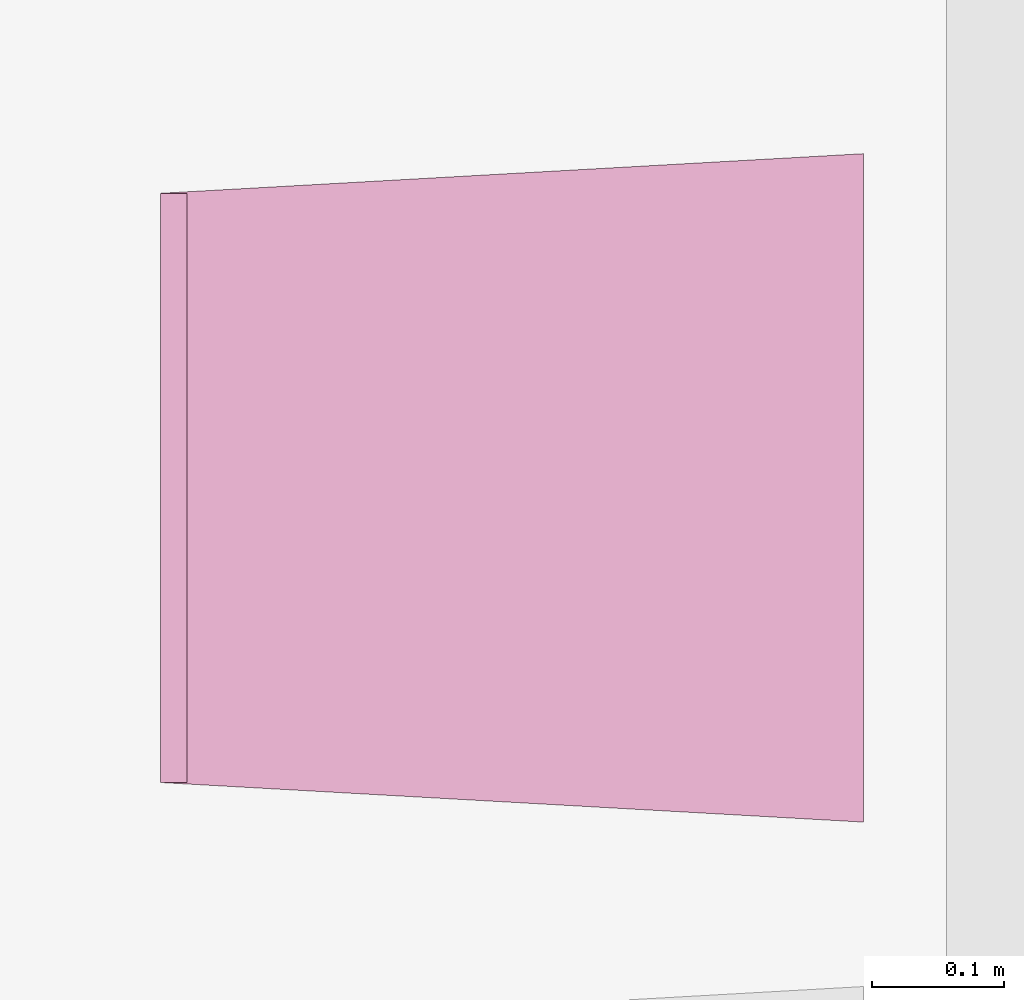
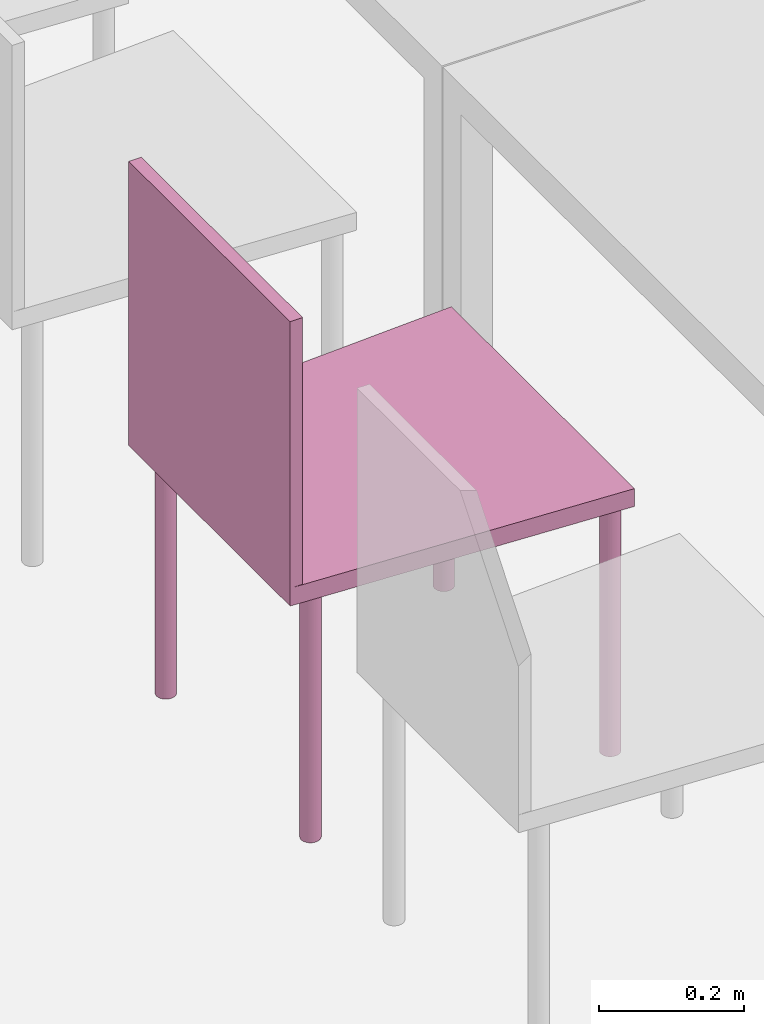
"""IFC4 building model written with IfcOpenShell, lengths in metres."""

from ifc_helpers import new_model, entity, si_unit, converted_unit, derived_unit, frame, origin, place, context, subcontext, project, spatial, faceted_brep, element, save


model = new_model("IFC4")

# Units and contexts
model_context = context("Model", 3, precision=1e-05, world=origin())
body_context = subcontext(model_context, "Body", "Model", "MODEL_VIEW")
ifc_project = project(units=[si_unit("LENGTHUNIT", "METRE"), si_unit("AREAUNIT", "SQUARE_METRE"), si_unit("VOLUMEUNIT", "CUBIC_METRE"), si_unit("MASSUNIT", "GRAM", prefix="KILO"), converted_unit("PLANEANGLEUNIT", "DEGREE", entity("IfcPlaneAngleMeasure", 0.0174532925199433), si_unit("PLANEANGLEUNIT", "RADIAN"), dimensions=[0, 0, 0, 0, 0, 0, 0]), derived_unit("THERMALTRANSMITTANCEUNIT", [(si_unit("POWERUNIT", "WATT"), 1), (si_unit("THERMODYNAMICTEMPERATUREUNIT", "KELVIN"), -1), (si_unit("LENGTHUNIT", "METRE"), -2)]), derived_unit("VOLUMETRICFLOWRATEUNIT", [(si_unit("LENGTHUNIT", "METRE"), 3), (converted_unit("TIMEUNIT", "hour", entity("IfcTimeMeasure", 3600.0), si_unit("TIMEUNIT", "SECOND"), dimensions=[0, 0, 1, 0, 0, 0, 0]), -1), (si_unit("LENGTHUNIT", "METRE"), -1)])], contexts=[model_context])

# Building, storeys
building_placement = place(None, origin())
building = spatial("IfcBuilding", under=ifc_project, at=building_placement, Name="HABITATGE PLURIFAMILIAR", CompositionType="ELEMENT")
storey_1_placement = place(building_placement, frame((0.0, 0.0, 3.35)))
storey_1 = spatial("IfcBuildingStorey", under=building, at=storey_1_placement, Name="PLANTA  ALTELL", CompositionType="ELEMENT", Elevation=3.35)
storey_2_placement = place(storey_1_placement, origin())
storey_2 = spatial("IfcBuildingStorey", under=storey_1, at=storey_2_placement, Name="NOU", CompositionType="PARTIAL")

# Furniture
furniture_placement = place(storey_2_placement, frame((400.206206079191, 19.4803721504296, 0.0499839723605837)))
element("IfcFurniture", 1, at=furniture_placement, inside=storey_2, Name="Cadira confident_PA", context=body_context, shape_type="Brep", body=[
    faceted_brep([(0.507575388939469, 0.0391636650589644, 0.0), (0.504980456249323, 0.0389479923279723, 0.0), (0.502462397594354, 0.0382849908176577, 0.0), (0.500097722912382, 0.0371948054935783, 0.0), (0.497958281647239, 0.0357105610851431, 0.0), (0.496109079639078, 0.0338773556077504, 0.0), (0.494606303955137, 0.0317508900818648, 0.0), (0.493495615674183, 0.0293957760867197, 0.0), (0.492810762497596, 0.0268835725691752, 0.0), (0.492572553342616, 0.0242906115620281, 0.0), (0.492788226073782, 0.0216956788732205, 0.0), (0.493451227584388, 0.019177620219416, 0.0), (0.494541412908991, 0.0168129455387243, 0.0), (0.496025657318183, 0.0146735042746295, 0.0), (0.497858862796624, 0.0128243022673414, 0.0), (0.499985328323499, 0.0113215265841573, 0.0), (0.502340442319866, 0.0102108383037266, 0.0), (0.504852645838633, 0.00952598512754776, 0.0), (0.507445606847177, 0.00928777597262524, 0.0), (0.510040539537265, 0.00950344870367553, 0.0), (0.512558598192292, 0.010166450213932, 0.0), (0.514923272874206, 0.0112566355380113, 0.0), (0.517062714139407, 0.0127408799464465, 0.0), (0.518911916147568, 0.0145740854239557, 0.0), (0.520414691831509, 0.0167005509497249, 0.0), (0.521525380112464, 0.0190556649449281, 0.0), (0.52221023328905, 0.0215678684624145, 0.0), (0.522448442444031, 0.0241608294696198, 0.0), (0.522232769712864, 0.0267557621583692, 0.0), (0.521569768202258, 0.0292738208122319, 0.0), (0.520479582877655, 0.0316384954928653, 0.0), (0.518995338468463, 0.0337779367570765, 0.0), (0.517162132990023, 0.0356271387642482, 0.0), (0.515035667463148, 0.0371299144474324, 0.0), (0.51268055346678, 0.038240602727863, 0.0), (0.510168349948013, 0.0389254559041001, 0.0), (0.507575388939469, 0.0391636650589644, 0.448281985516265), (0.510168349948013, 0.0389254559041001, 0.448281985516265), (0.51268055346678, 0.038240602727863, 0.448281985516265), (0.515035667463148, 0.0371299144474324, 0.448281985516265), (0.517162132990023, 0.0356271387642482, 0.448281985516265), (0.518995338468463, 0.0337779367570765, 0.448281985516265), (0.520479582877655, 0.0316384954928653, 0.448281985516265), (0.521569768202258, 0.0292738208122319, 0.448281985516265), (0.522232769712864, 0.0267557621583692, 0.448281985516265), (0.522448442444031, 0.0241608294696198, 0.448281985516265), (0.52221023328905, 0.0215678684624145, 0.448281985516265), (0.521525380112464, 0.0190556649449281, 0.448281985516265), (0.520414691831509, 0.0167005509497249, 0.448281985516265), (0.518911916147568, 0.0145740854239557, 0.448281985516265), (0.517062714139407, 0.0127408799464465, 0.448281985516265), (0.514923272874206, 0.0112566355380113, 0.448281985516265), (0.512558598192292, 0.010166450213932, 0.448281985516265), (0.510040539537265, 0.00950344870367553, 0.448281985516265), (0.507445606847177, 0.00928777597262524, 0.448281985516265), (0.504852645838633, 0.00952598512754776, 0.448281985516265), (0.502340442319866, 0.0102108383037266, 0.448281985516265), (0.499985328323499, 0.0113215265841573, 0.448281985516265), (0.497858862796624, 0.0128243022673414, 0.448281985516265), (0.496025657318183, 0.0146735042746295, 0.448281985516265), (0.494541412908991, 0.0168129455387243, 0.448281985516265), (0.493451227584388, 0.019177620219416, 0.448281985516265), (0.492788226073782, 0.0216956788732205, 0.448281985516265), (0.492572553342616, 0.0242906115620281, 0.448281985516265), (0.492810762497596, 0.0268835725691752, 0.448281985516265), (0.493495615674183, 0.0293957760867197, 0.448281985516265), (0.494606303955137, 0.0317508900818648, 0.448281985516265), (0.496109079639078, 0.0338773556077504, 0.448281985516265), (0.497958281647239, 0.0357105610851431, 0.448281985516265), (0.500097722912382, 0.0371948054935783, 0.448281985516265), (0.502462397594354, 0.0382849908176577, 0.448281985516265), (0.504980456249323, 0.0389479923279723, 0.448281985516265)], [[[0, 1, 2, 3, 4, 5, 6, 7, 8, 9, 10, 11, 12, 13, 14, 15, 16, 17, 18, 19, 20, 21, 22, 23, 24, 25, 26, 27, 28, 29, 30, 31, 32, 33, 34, 35]], [[36, 37, 38, 39, 40, 41, 42, 43, 44, 45, 46, 47, 48, 49, 50, 51, 52, 53, 54, 55, 56, 57, 58, 59, 60, 61, 62, 63, 64, 65, 66, 67, 68, 69, 70, 71]], [[1, 0, 36, 71]], [[2, 1, 71, 70]], [[3, 2, 70, 69]], [[4, 3, 69, 68]], [[5, 4, 68, 67]], [[6, 5, 67, 66]], [[7, 6, 66, 65]], [[8, 7, 65, 64]], [[9, 8, 64, 63]], [[10, 9, 63, 62]], [[11, 10, 62, 61]], [[12, 11, 61, 60]], [[13, 12, 60, 59]], [[14, 13, 59, 58]], [[15, 14, 58, 57]], [[16, 15, 57, 56]], [[17, 16, 56, 55]], [[18, 17, 55, 54]], [[19, 18, 54, 53]], [[20, 19, 53, 52]], [[21, 20, 52, 51]], [[22, 21, 51, 50]], [[23, 22, 50, 49]], [[24, 23, 49, 48]], [[25, 24, 48, 47]], [[26, 25, 47, 46]], [[27, 26, 46, 45]], [[28, 27, 45, 44]], [[29, 28, 44, 43]], [[30, 29, 43, 42]], [[31, 30, 42, 41]], [[32, 31, 41, 40]], [[33, 32, 40, 39]], [[34, 33, 39, 38]], [[35, 34, 38, 37]], [[0, 35, 37, 36]]], orient=[[False], [False], [False], [False], [False], [False], [False], [False], [False], [False], [False], [False], [False], [False], [False], [False], [False], [False], [False], [False], [False], [False], [False], [False], [False], [False], [False], [False], [False], [False], [False], [False], [False], [False], [False], [False], [False], [False]]),
    faceted_brep([(0.0451683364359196, 0.0668016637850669, 0.0), (0.0425734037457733, 0.0665859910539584, 0.0), (0.0400553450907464, 0.065922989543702, 0.0), (0.0376906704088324, 0.0648328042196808, 0.0), (0.0355512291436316, 0.0633485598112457, 0.0), (0.0337020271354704, 0.0615153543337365, 0.0), (0.0321992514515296, 0.0593888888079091, 0.0), (0.0310885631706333, 0.057033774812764, 0.0), (0.0304037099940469, 0.0545215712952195, 0.0), (0.030165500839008, 0.0519286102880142, 0.0), (0.0303811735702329, 0.0493336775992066, 0.0), (0.0310441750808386, 0.0468156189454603, 0.0), (0.0321343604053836, 0.0444509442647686, 0.0), (0.0336186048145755, 0.0423115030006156, 0.0), (0.035451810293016, 0.0404623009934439, 0.0), (0.0375782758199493, 0.0389595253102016, 0.0), (0.0399333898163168, 0.0378488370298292, 0.0), (0.0424455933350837, 0.0371639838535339, 0.0), (0.0450385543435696, 0.0369257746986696, 0.0), (0.0476334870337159, 0.0371414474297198, 0.0), (0.0501515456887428, 0.0378044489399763, 0.0), (0.0525162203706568, 0.0388946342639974, 0.0), (0.0546556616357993, 0.0403788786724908, 0.0), (0.0565048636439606, 0.0422120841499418, 0.0), (0.0580076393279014, 0.0443385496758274, 0.0), (0.0591183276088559, 0.0466936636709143, 0.0), (0.0598031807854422, 0.0492058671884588, 0.0), (0.060041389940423, 0.0517988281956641, 0.0), (0.0598257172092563, 0.0543937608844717, 0.0), (0.0591627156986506, 0.056911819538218, 0.0), (0.0580725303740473, 0.0592764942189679, 0.0), (0.0565882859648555, 0.0614159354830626, 0.0), (0.054755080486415, 0.0632651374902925, 0.0), (0.0526286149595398, 0.0647679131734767, 0.0), (0.0502735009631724, 0.0658786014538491, 0.0), (0.0477612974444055, 0.0665634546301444, 0.0), (0.0451683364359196, 0.0668016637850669, 0.448281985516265), (0.0477612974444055, 0.0665634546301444, 0.448281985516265), (0.0502735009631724, 0.0658786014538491, 0.448281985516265), (0.0526286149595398, 0.0647679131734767, 0.448281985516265), (0.054755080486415, 0.0632651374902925, 0.448281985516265), (0.0565882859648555, 0.0614159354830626, 0.448281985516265), (0.0580725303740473, 0.0592764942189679, 0.448281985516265), (0.0591627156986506, 0.056911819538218, 0.448281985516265), (0.0598257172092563, 0.0543937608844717, 0.448281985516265), (0.060041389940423, 0.0517988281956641, 0.448281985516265), (0.0598031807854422, 0.0492058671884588, 0.448281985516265), (0.0591183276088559, 0.0466936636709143, 0.448281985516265), (0.0580076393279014, 0.0443385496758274, 0.448281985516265), (0.0565048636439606, 0.0422120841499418, 0.448281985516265), (0.0546556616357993, 0.0403788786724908, 0.448281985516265), (0.0525162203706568, 0.0388946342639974, 0.448281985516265), (0.0501515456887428, 0.0378044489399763, 0.448281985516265), (0.0476334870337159, 0.0371414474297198, 0.448281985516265), (0.0450385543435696, 0.0369257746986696, 0.448281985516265), (0.0424455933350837, 0.0371639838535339, 0.448281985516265), (0.0399333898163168, 0.0378488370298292, 0.448281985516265), (0.0375782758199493, 0.0389595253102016, 0.448281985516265), (0.035451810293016, 0.0404623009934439, 0.448281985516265), (0.0336186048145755, 0.0423115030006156, 0.448281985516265), (0.0321343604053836, 0.0444509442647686, 0.448281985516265), (0.0310441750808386, 0.0468156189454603, 0.448281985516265), (0.0303811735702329, 0.0493336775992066, 0.448281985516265), (0.030165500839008, 0.0519286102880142, 0.448281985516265), (0.0304037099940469, 0.0545215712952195, 0.448281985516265), (0.0310885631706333, 0.057033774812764, 0.448281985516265), (0.0321992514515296, 0.0593888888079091, 0.448281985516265), (0.0337020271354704, 0.0615153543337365, 0.448281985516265), (0.0355512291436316, 0.0633485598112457, 0.448281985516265), (0.0376906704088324, 0.0648328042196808, 0.448281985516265), (0.0400553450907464, 0.065922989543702, 0.448281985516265), (0.0425734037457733, 0.0665859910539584, 0.448281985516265)], [[[0, 1, 2, 3, 4, 5, 6, 7, 8, 9, 10, 11, 12, 13, 14, 15, 16, 17, 18, 19, 20, 21, 22, 23, 24, 25, 26, 27, 28, 29, 30, 31, 32, 33, 34, 35]], [[36, 37, 38, 39, 40, 41, 42, 43, 44, 45, 46, 47, 48, 49, 50, 51, 52, 53, 54, 55, 56, 57, 58, 59, 60, 61, 62, 63, 64, 65, 66, 67, 68, 69, 70, 71]], [[1, 0, 36, 71]], [[2, 1, 71, 70]], [[3, 2, 70, 69]], [[4, 3, 69, 68]], [[5, 4, 68, 67]], [[6, 5, 67, 66]], [[7, 6, 66, 65]], [[8, 7, 65, 64]], [[9, 8, 64, 63]], [[10, 9, 63, 62]], [[11, 10, 62, 61]], [[12, 11, 61, 60]], [[13, 12, 60, 59]], [[14, 13, 59, 58]], [[15, 14, 58, 57]], [[16, 15, 57, 56]], [[17, 16, 56, 55]], [[18, 17, 55, 54]], [[19, 18, 54, 53]], [[20, 19, 53, 52]], [[21, 20, 52, 51]], [[22, 21, 51, 50]], [[23, 22, 50, 49]], [[24, 23, 49, 48]], [[25, 24, 48, 47]], [[26, 25, 47, 46]], [[27, 26, 46, 45]], [[28, 27, 45, 44]], [[29, 28, 44, 43]], [[30, 29, 43, 42]], [[31, 30, 42, 41]], [[32, 31, 41, 40]], [[33, 32, 40, 39]], [[34, 33, 39, 38]], [[35, 34, 38, 37]], [[0, 35, 37, 36]]], orient=[[False], [False], [False], [False], [False], [False], [False], [False], [False], [False], [False], [False], [False], [False], [False], [False], [False], [False], [False], [False], [False], [False], [False], [False], [False], [False], [False], [False], [False], [False], [False], [False], [False], [False], [False], [False], [False], [False]]),
    faceted_brep([(0.50757538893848, 0.499163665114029, 0.0), (0.504980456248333, 0.49894799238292, 0.0), (0.502462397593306, 0.498284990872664, 0.0), (0.500097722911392, 0.497194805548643, 0.0), (0.49795828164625, 0.495710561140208, 0.0), (0.49610907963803, 0.493877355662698, 0.0), (0.494606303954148, 0.491750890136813, 0.0), (0.493495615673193, 0.489395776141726, 0.0), (0.492810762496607, 0.486883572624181, 0.0), (0.492572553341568, 0.484290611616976, 0.0), (0.492788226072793, 0.481695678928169, 0.0), (0.493451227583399, 0.479177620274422, 0.0), (0.494541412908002, 0.476812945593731, 0.0), (0.496025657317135, 0.474673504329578, 0.0), (0.497858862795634, 0.472824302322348, 0.0), (0.499985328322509, 0.471321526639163, 0.0), (0.502340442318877, 0.470210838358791, 0.0), (0.504852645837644, 0.469525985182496, 0.0), (0.507445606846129, 0.469287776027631, 0.0), (0.510040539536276, 0.469503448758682, 0.0), (0.512558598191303, 0.470166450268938, 0.0), (0.514923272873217, 0.471256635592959, 0.0), (0.517062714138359, 0.472740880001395, 0.0), (0.518911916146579, 0.474574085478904, 0.0), (0.520414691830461, 0.476700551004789, 0.0), (0.521525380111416, 0.479055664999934, 0.0), (0.522210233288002, 0.481567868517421, 0.0), (0.522448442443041, 0.484160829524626, 0.0), (0.522232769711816, 0.486755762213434, 0.0), (0.521569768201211, 0.489273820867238, 0.0), (0.520479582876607, 0.491638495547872, 0.0), (0.518995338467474, 0.493777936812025, 0.0), (0.517162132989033, 0.495627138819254, 0.0), (0.5150356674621, 0.497129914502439, 0.0), (0.512680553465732, 0.498240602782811, 0.0), (0.510168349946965, 0.498925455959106, 0.0), (0.50757538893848, 0.499163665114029, 0.448281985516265), (0.510168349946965, 0.498925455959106, 0.448281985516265), (0.512680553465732, 0.498240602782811, 0.448281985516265), (0.5150356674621, 0.497129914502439, 0.448281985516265), (0.517162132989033, 0.495627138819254, 0.448281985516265), (0.518995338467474, 0.493777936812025, 0.448281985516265), (0.520479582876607, 0.491638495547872, 0.448281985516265), (0.521569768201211, 0.489273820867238, 0.448281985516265), (0.522232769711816, 0.486755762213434, 0.448281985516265), (0.522448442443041, 0.484160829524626, 0.448281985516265), (0.522210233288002, 0.481567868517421, 0.448281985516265), (0.521525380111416, 0.479055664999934, 0.448281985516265), (0.520414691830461, 0.476700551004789, 0.448281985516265), (0.518911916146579, 0.474574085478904, 0.448281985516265), (0.517062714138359, 0.472740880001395, 0.448281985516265), (0.514923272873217, 0.471256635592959, 0.448281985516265), (0.512558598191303, 0.470166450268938, 0.448281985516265), (0.510040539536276, 0.469503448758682, 0.448281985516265), (0.507445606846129, 0.469287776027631, 0.448281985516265), (0.504852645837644, 0.469525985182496, 0.448281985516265), (0.502340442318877, 0.470210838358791, 0.448281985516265), (0.499985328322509, 0.471321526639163, 0.448281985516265), (0.497858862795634, 0.472824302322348, 0.448281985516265), (0.496025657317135, 0.474673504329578, 0.448281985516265), (0.494541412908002, 0.476812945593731, 0.448281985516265), (0.493451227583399, 0.479177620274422, 0.448281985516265), (0.492788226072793, 0.481695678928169, 0.448281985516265), (0.492572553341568, 0.484290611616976, 0.448281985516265), (0.492810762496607, 0.486883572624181, 0.448281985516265), (0.493495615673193, 0.489395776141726, 0.448281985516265), (0.494606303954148, 0.491750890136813, 0.448281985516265), (0.49610907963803, 0.493877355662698, 0.448281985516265), (0.49795828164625, 0.495710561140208, 0.448281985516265), (0.500097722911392, 0.497194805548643, 0.448281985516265), (0.502462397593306, 0.498284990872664, 0.448281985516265), (0.504980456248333, 0.49894799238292, 0.448281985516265)], [[[0, 1, 2, 3, 4, 5, 6, 7, 8, 9, 10, 11, 12, 13, 14, 15, 16, 17, 18, 19, 20, 21, 22, 23, 24, 25, 26, 27, 28, 29, 30, 31, 32, 33, 34, 35]], [[36, 37, 38, 39, 40, 41, 42, 43, 44, 45, 46, 47, 48, 49, 50, 51, 52, 53, 54, 55, 56, 57, 58, 59, 60, 61, 62, 63, 64, 65, 66, 67, 68, 69, 70, 71]], [[1, 0, 36, 71]], [[2, 1, 71, 70]], [[3, 2, 70, 69]], [[4, 3, 69, 68]], [[5, 4, 68, 67]], [[6, 5, 67, 66]], [[7, 6, 66, 65]], [[8, 7, 65, 64]], [[9, 8, 64, 63]], [[10, 9, 63, 62]], [[11, 10, 62, 61]], [[12, 11, 61, 60]], [[13, 12, 60, 59]], [[14, 13, 59, 58]], [[15, 14, 58, 57]], [[16, 15, 57, 56]], [[17, 16, 56, 55]], [[18, 17, 55, 54]], [[19, 18, 54, 53]], [[20, 19, 53, 52]], [[21, 20, 52, 51]], [[22, 21, 51, 50]], [[23, 22, 50, 49]], [[24, 23, 49, 48]], [[25, 24, 48, 47]], [[26, 25, 47, 46]], [[27, 26, 46, 45]], [[28, 27, 45, 44]], [[29, 28, 44, 43]], [[30, 29, 43, 42]], [[31, 30, 42, 41]], [[32, 31, 41, 40]], [[33, 32, 40, 39]], [[34, 33, 39, 38]], [[35, 34, 38, 37]], [[0, 35, 37, 36]]], orient=[[False], [False], [False], [False], [False], [False], [False], [False], [False], [False], [False], [False], [False], [False], [False], [False], [False], [False], [False], [False], [False], [False], [False], [False], [False], [False], [False], [False], [False], [False], [False], [False], [False], [False], [False], [False], [False], [False]]),
    faceted_brep([(0.0451683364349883, 0.466801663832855, 0.0), (0.0425734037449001, 0.466585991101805, 0.0), (0.0400553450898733, 0.465922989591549, 0.0), (0.0376906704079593, 0.464832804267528, 0.0), (0.0355512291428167, 0.463348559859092, 0.0), (0.0337020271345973, 0.461515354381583, 0.0), (0.0321992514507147, 0.459388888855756, 0.0), (0.0310885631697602, 0.457033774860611, 0.0), (0.0304037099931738, 0.454521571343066, 0.0), (0.0301655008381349, 0.451928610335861, 0.0), (0.0303811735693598, 0.449333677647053, 0.0), (0.0310441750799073, 0.446815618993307, 0.0), (0.0321343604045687, 0.444450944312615, 0.0), (0.0336186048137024, 0.442311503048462, 0.0), (0.0354518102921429, 0.440462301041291, 0.0), (0.0375782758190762, 0.438959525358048, 0.0), (0.0399333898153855, 0.437848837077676, 0.0), (0.0424455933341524, 0.437163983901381, 0.0), (0.0450385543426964, 0.436925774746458, 0.0), (0.0476334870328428, 0.437141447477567, 0.0), (0.0501515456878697, 0.437804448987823, 0.0), (0.0525162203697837, 0.438894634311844, 0.0), (0.0546556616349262, 0.440378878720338, 0.0), (0.0565048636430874, 0.442212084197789, 0.0), (0.0580076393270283, 0.444338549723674, 0.0), (0.0591183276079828, 0.446693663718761, 0.0), (0.0598031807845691, 0.449205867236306, 0.0), (0.0600413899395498, 0.451798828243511, 0.0), (0.0598257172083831, 0.454393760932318, 0.0), (0.0591627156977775, 0.456911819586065, 0.0), (0.0580725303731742, 0.459276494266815, 0.0), (0.0565882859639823, 0.461415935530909, 0.0), (0.0547550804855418, 0.463265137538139, 0.0), (0.0526286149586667, 0.464767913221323, 0.0), (0.0502735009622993, 0.465878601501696, 0.0), (0.0477612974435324, 0.466563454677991, 0.0), (0.0451683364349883, 0.466801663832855, 0.448281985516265), (0.0477612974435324, 0.466563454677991, 0.448281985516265), (0.0502735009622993, 0.465878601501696, 0.448281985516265), (0.0526286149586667, 0.464767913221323, 0.448281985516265), (0.0547550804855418, 0.463265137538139, 0.448281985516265), (0.0565882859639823, 0.461415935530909, 0.448281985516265), (0.0580725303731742, 0.459276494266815, 0.448281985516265), (0.0591627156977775, 0.456911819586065, 0.448281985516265), (0.0598257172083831, 0.454393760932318, 0.448281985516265), (0.0600413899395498, 0.451798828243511, 0.448281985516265), (0.0598031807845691, 0.449205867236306, 0.448281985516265), (0.0591183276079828, 0.446693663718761, 0.448281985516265), (0.0580076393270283, 0.444338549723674, 0.448281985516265), (0.0565048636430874, 0.442212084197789, 0.448281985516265), (0.0546556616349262, 0.440378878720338, 0.448281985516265), (0.0525162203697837, 0.438894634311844, 0.448281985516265), (0.0501515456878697, 0.437804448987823, 0.448281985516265), (0.0476334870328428, 0.437141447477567, 0.448281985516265), (0.0450385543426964, 0.436925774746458, 0.448281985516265), (0.0424455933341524, 0.437163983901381, 0.448281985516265), (0.0399333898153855, 0.437848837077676, 0.448281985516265), (0.0375782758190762, 0.438959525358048, 0.448281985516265), (0.0354518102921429, 0.440462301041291, 0.448281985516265), (0.0336186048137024, 0.442311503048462, 0.448281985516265), (0.0321343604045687, 0.444450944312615, 0.448281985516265), (0.0310441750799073, 0.446815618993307, 0.448281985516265), (0.0303811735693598, 0.449333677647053, 0.448281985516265), (0.0301655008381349, 0.451928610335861, 0.448281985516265), (0.0304037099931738, 0.454521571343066, 0.448281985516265), (0.0310885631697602, 0.457033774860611, 0.448281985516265), (0.0321992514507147, 0.459388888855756, 0.448281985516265), (0.0337020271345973, 0.461515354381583, 0.448281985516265), (0.0355512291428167, 0.463348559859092, 0.448281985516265), (0.0376906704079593, 0.464832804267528, 0.448281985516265), (0.0400553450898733, 0.465922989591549, 0.448281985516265), (0.0425734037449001, 0.466585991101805, 0.448281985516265)], [[[0, 1, 2, 3, 4, 5, 6, 7, 8, 9, 10, 11, 12, 13, 14, 15, 16, 17, 18, 19, 20, 21, 22, 23, 24, 25, 26, 27, 28, 29, 30, 31, 32, 33, 34, 35]], [[36, 37, 38, 39, 40, 41, 42, 43, 44, 45, 46, 47, 48, 49, 50, 51, 52, 53, 54, 55, 56, 57, 58, 59, 60, 61, 62, 63, 64, 65, 66, 67, 68, 69, 70, 71]], [[1, 0, 36, 71]], [[2, 1, 71, 70]], [[3, 2, 70, 69]], [[4, 3, 69, 68]], [[5, 4, 68, 67]], [[6, 5, 67, 66]], [[7, 6, 66, 65]], [[8, 7, 65, 64]], [[9, 8, 64, 63]], [[10, 9, 63, 62]], [[11, 10, 62, 61]], [[12, 11, 61, 60]], [[13, 12, 60, 59]], [[14, 13, 59, 58]], [[15, 14, 58, 57]], [[16, 15, 57, 56]], [[17, 16, 56, 55]], [[18, 17, 55, 54]], [[19, 18, 54, 53]], [[20, 19, 53, 52]], [[21, 20, 52, 51]], [[22, 21, 51, 50]], [[23, 22, 50, 49]], [[24, 23, 49, 48]], [[25, 24, 48, 47]], [[26, 25, 47, 46]], [[27, 26, 46, 45]], [[28, 27, 45, 44]], [[29, 28, 44, 43]], [[30, 29, 43, 42]], [[31, 30, 42, 41]], [[32, 31, 41, 40]], [[33, 32, 40, 39]], [[34, 33, 39, 38]], [[35, 34, 38, 37]], [[0, 35, 37, 36]]], orient=[[False], [False], [False], [False], [False], [False], [False], [False], [False], [False], [False], [False], [False], [False], [False], [False], [False], [False], [False], [False], [False], [False], [False], [False], [False], [False], [False], [False], [False], [False], [False], [False], [False], [False], [False], [False], [False], [False]]),
    faceted_brep([(0.0, 0.476514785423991, 0.418281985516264), (0.0, 0.0300000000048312, 0.418281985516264), (0.532607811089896, 0.0, 0.418281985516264), (0.532607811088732, 0.506514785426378, 0.418281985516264), (0.532607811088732, 0.506514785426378, 0.448281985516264), (0.532607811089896, 0.0, 0.448281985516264), (0.0, 0.0300000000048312, 0.448281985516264), (0.0, 0.476514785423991, 0.448281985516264)], [[[0, 1, 2, 3]], [[4, 5, 6, 7]], [[3, 4, 7, 0]], [[2, 5, 4, 3]], [[1, 6, 5, 2]], [[0, 7, 6, 1]]], orient=[[False], [False], [False], [False], [False], [False]]),
    faceted_brep([(0.0200000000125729, 0.476514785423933, 0.448281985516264), (0.0, 0.476514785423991, 0.448281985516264), (0.0, 0.0300000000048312, 0.448281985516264), (0.0200000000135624, 0.0300000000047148, 0.448281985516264), (0.0200000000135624, 0.0300000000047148, 0.898281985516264), (0.0, 0.0300000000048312, 0.898281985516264), (0.0, 0.476514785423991, 0.898281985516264), (0.0200000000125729, 0.476514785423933, 0.898281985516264)], [[[0, 1, 2, 3]], [[4, 5, 6, 7]], [[3, 4, 7, 0]], [[2, 5, 4, 3]], [[1, 6, 5, 2]], [[0, 7, 6, 1]]], orient=[[False], [False], [False], [False], [False], [False]]),
])

save(model, "model.ifc")
